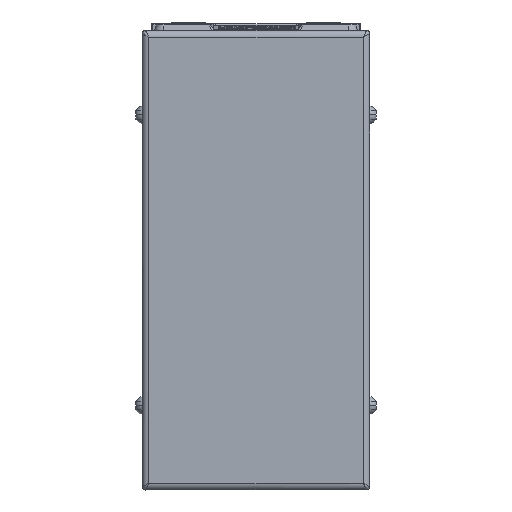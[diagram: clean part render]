
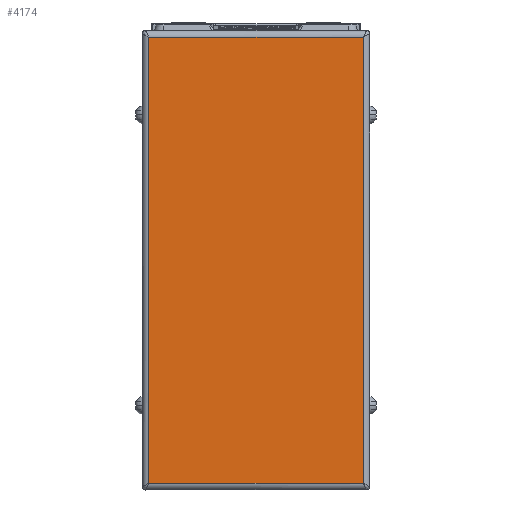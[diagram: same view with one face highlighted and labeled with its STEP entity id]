
A CAD part, left-side view. The second image highlights one B-rep face of the part: STEP entity #4174.
In plain terms, the highlighted planar face has unit normal (-1, 0, 0) as drawn and (0, 0, 1) by its records, which use the part's own axes.
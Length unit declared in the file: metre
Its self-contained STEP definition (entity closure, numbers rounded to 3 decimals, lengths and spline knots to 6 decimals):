
#4174=ADVANCED_FACE('',(#8602),#8603,.T.);
#8602=FACE_OUTER_BOUND('',#16866,.T.);
#8603=PLANE('',#16867);
#16866=EDGE_LOOP('',(#27401,#27402,#27403,#27404));
#16867=AXIS2_PLACEMENT_3D('',#27405,#27406,#27407);
#27401=ORIENTED_EDGE('',*,*,#35687,.F.);
#27402=ORIENTED_EDGE('',*,*,#35688,.F.);
#27403=ORIENTED_EDGE('',*,*,#35689,.F.);
#27404=ORIENTED_EDGE('',*,*,#32605,.F.);
#27405=CARTESIAN_POINT('',(-0.054,-0.014256,0.033889));
#27406=DIRECTION('',(0.0,0.0,1.0));
#27407=DIRECTION('',(1.0,0.0,0.0));
#32605=EDGE_CURVE('',#38373,#37036,#38376,.T.);
#35687=EDGE_CURVE('',#42877,#38373,#42878,.T.);
#35688=EDGE_CURVE('',#42879,#42877,#42880,.T.);
#35689=EDGE_CURVE('',#37036,#42879,#42881,.T.);
#37036=VERTEX_POINT('',#44596);
#38373=VERTEX_POINT('',#46409);
#38376=LINE('',#46421,#46422);
#42877=VERTEX_POINT('',#53433);
#42878=LINE('',#53434,#53435);
#42879=VERTEX_POINT('',#53436);
#42880=LINE('',#53437,#53438);
#42881=LINE('',#53439,#53440);
#44596=CARTESIAN_POINT('',(-0.12,-0.045956,0.033889));
#46409=CARTESIAN_POINT('',(0.012,-0.045956,0.033889));
#46421=CARTESIAN_POINT('',(-0.054,-0.045956,0.033889));
#46422=VECTOR('',#56179,1.0);
#53433=CARTESIAN_POINT('',(0.012,0.017444,0.033889));
#53434=CARTESIAN_POINT('',(0.012,-0.014256,0.033889));
#53435=VECTOR('',#59643,1.0);
#53436=CARTESIAN_POINT('',(-0.12,0.017444,0.033889));
#53437=CARTESIAN_POINT('',(-0.054,0.017444,0.033889));
#53438=VECTOR('',#59644,1.0);
#53439=CARTESIAN_POINT('',(-0.12,-0.014256,0.033889));
#53440=VECTOR('',#59645,1.0);
#56179=DIRECTION('',(-1.0,0.0,0.0));
#59643=DIRECTION('',(0.0,-1.0,0.0));
#59644=DIRECTION('',(1.0,0.0,0.0));
#59645=DIRECTION('',(0.0,1.0,0.0));
